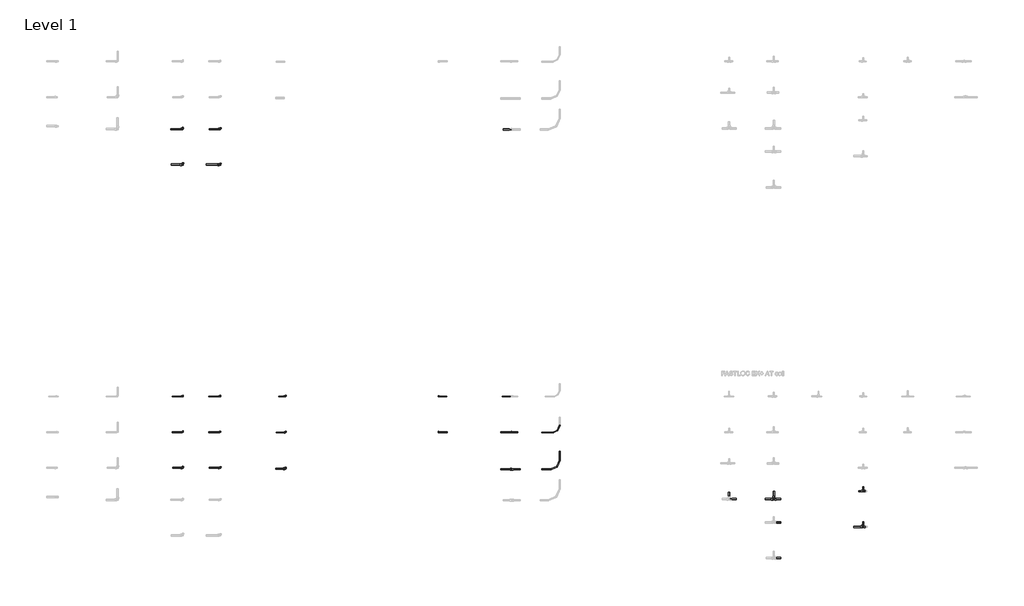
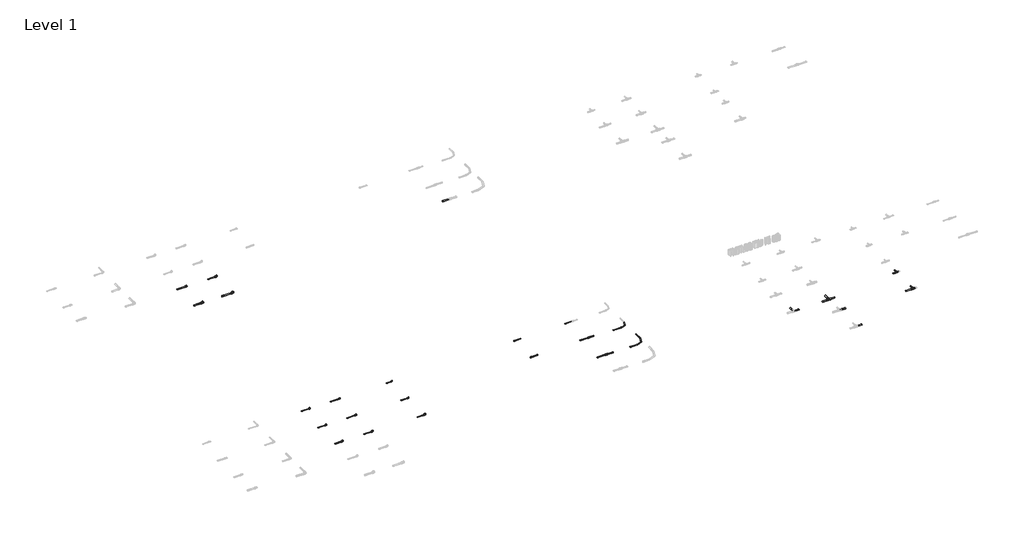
# One storey, part 5 of 16: 35 pipe segments, 24 pipe fittings.
"""IFC4 building model written with IfcOpenShell, lengths in millimetres."""

from ifc_helpers import new_model, si_unit, point, frame, frame_2d, origin, place, context, project, spatial, circle_curve, trimmed, segment, composite_curve, outline, extrude, transform, mapped, element, save
from components import pipe_fitting_24e9e25e, pipe_fitting_eea56ca5, pipe_fitting_715ab4bf, pipe_fitting_d7e847e2, pipe_fitting_2fdc1963, pipe_fitting_cb24982a, pipe_fitting_3031d961, pipe_fitting_5b5ff5cf, pipe_fitting_05bb6e73, pipe_fitting_50552096, pipe_fitting_31065531, pipe_fitting_7921c085, pipe_fitting_c3e7e8f9, pipe_fitting_baae1e9c, pipe_fitting_d3274886, pipe_fitting_5bb2cb98, pipe_fitting_ec6341fa, pipe_fitting_749d9a03, pipe_fitting_037c3912, pipe_fitting_c1b6c9bd, pipe_fitting_c244d94c

model = new_model("IFC4")

# Units and contexts
model_context = context("Model", 3, world=origin())
ifc_project = project(units=[si_unit("LENGTHUNIT", "METRE", prefix="MILLI")], contexts=[model_context])

# Site, building, storey
site = spatial("IfcSite", under=ifc_project)
building = spatial("IfcBuilding", under=site)
storey = spatial("IfcBuildingStorey", under=building, Name="Level 1", Elevation=0.0)

# Pipe fittings
placement = place(None, origin())
pipe_fitting_shape = pipe_fitting_24e9e25e(model_context)
element("IfcPipeFitting", 1, ObjectType="FASTLOC_Blanking plug EX+ : FSL Bp EX+ AT", at=placement, inside=storey, context=model_context, shape_type="MappedRepresentation", body=[
    mapped(pipe_fitting_shape, transform((22451.3241081, -7087.6479967, 0.0), x_axis=(1.0, 0.0, 0.0), y_axis=(0.0, 1.0, 0.0), z_axis=(0.0, 0.0, 1.0))),
])
pipe_fitting_2_shape = pipe_fitting_eea56ca5(model_context)
element("IfcPipeFitting", 2, ObjectType="FASTLOC_Elbow with female thread EX+ : FSL A internal DE", at=placement, inside=storey, context=model_context, shape_type="MappedRepresentation", body=[
    mapped(pipe_fitting_2_shape, transform((17573.8113057, -304.9640428, 0.0), x_axis=(1.0, 0.0, 0.0), y_axis=(0.0, 1.0, 0.0), z_axis=(0.0, 0.0, 1.0))),
])
pipe_fitting_3_shape = pipe_fitting_715ab4bf(model_context)
element("IfcPipeFitting", 3, ObjectType="FASTLOC_Elbow with female thread EX+ : FSL A internal DE", at=placement, inside=storey, context=model_context, shape_type="MappedRepresentation", body=[
    mapped(pipe_fitting_3_shape, transform((17573.8113057, -1099.407392, 0.0), x_axis=(1.0, 0.0, 0.0), y_axis=(0.0, 1.0, 0.0), z_axis=(0.0, 0.0, 1.0))),
])
pipe_fitting_4_shape = pipe_fitting_d7e847e2(model_context)
element("IfcPipeFitting", 4, ObjectType="FASTLOC_Elbow with female thread EX+ : FSL A internal AT", at=placement, inside=storey, context=model_context, shape_type="MappedRepresentation", body=[
    mapped(pipe_fitting_4_shape, transform((17573.8113057, -7087.6479967, 0.0), x_axis=(1.0, 0.0, 0.0), y_axis=(0.0, 1.0, 0.0), z_axis=(0.0, 0.0, 1.0))),
])
pipe_fitting_5_shape = pipe_fitting_2fdc1963(model_context)
element("IfcPipeFitting", 5, ObjectType="FASTLOC_Elbow with female thread EX+ : FSL A internal AT", at=placement, inside=storey, context=model_context, shape_type="MappedRepresentation", body=[
    mapped(pipe_fitting_5_shape, transform((17573.8113057, -7887.6479967, 0.0), x_axis=(1.0, 0.0, 0.0), y_axis=(0.0, 1.0, 0.0), z_axis=(0.0, 0.0, 1.0))),
])
element("IfcPipeFitting", 6, ObjectType="FASTLOC_Elbow with female thread EX+ : FSL A internal AT", at=placement, inside=storey, context=model_context, shape_type="MappedRepresentation", body=[
    mapped(pipe_fitting_2_shape, transform((19035.3824015, -7906.354246, 0.0), x_axis=(1.0, 0.0, 0.0), y_axis=(0.0, 1.0, 0.0), z_axis=(0.0, 0.0, 1.0))),
])
pipe_fitting_6_shape = pipe_fitting_cb24982a(model_context)
element("IfcPipeFitting", 7, ObjectType="FASTLOC_Elbow with male thread EX+ : FSL A internal DE", at=placement, inside=storey, context=model_context, shape_type="MappedRepresentation", body=[
    mapped(pipe_fitting_6_shape, transform((16735.3824015, -304.9640428, 0.0), x_axis=(1.0, 0.0, 0.0), y_axis=(0.0, 1.0, 0.0), z_axis=(0.0, 0.0, 1.0))),
])
pipe_fitting_7_shape = pipe_fitting_3031d961(model_context)
element("IfcPipeFitting", 8, ObjectType="FASTLOC_Elbow with male thread EX+ : FSL A internal DE", at=placement, inside=storey, context=model_context, shape_type="MappedRepresentation", body=[
    mapped(pipe_fitting_7_shape, transform((16735.3824015, -1099.407392, 0.0), x_axis=(1.0, 0.0, 0.0), y_axis=(0.0, 1.0, 0.0), z_axis=(0.0, 0.0, 1.0))),
])
pipe_fitting_8_shape = pipe_fitting_5b5ff5cf(model_context)
element("IfcPipeFitting", 9, ObjectType="FASTLOC_Elbow with male thread EX+ : FSL A internal AT", at=placement, inside=storey, context=model_context, shape_type="MappedRepresentation", body=[
    mapped(pipe_fitting_8_shape, transform((16735.3824015, -6287.6479967, 0.0), x_axis=(1.0, 0.0, 0.0), y_axis=(0.0, 1.0, 0.0), z_axis=(0.0, 0.0, 1.0))),
])
pipe_fitting_9_shape = pipe_fitting_05bb6e73(model_context)
element("IfcPipeFitting", 10, ObjectType="FASTLOC_Elbow with male thread EX+ : FSL A internal AT", at=placement, inside=storey, context=model_context, shape_type="MappedRepresentation", body=[
    mapped(pipe_fitting_9_shape, transform((16735.3824015, -7887.6479967, 0.0), x_axis=(1.0, 0.0, 0.0), y_axis=(0.0, 1.0, 0.0), z_axis=(0.0, 0.0, 1.0))),
])
pipe_fitting_10_shape = pipe_fitting_50552096(model_context)
element("IfcPipeFitting", 11, ObjectType="FASTLOC_ML_bend : FSL ML AT", at=placement, inside=storey, context=model_context, shape_type="MappedRepresentation", body=[
    mapped(pipe_fitting_10_shape, transform((25170.2040344, -7095.6479967, 0.0), x_axis=(1.0, 0.0, 0.0), y_axis=(0.0, 1.0, 0.0), z_axis=(0.0, 0.0, 1.0))),
])
pipe_fitting_11_shape = pipe_fitting_31065531(model_context)
element("IfcPipeFitting", 12, ObjectType="FASTLOC_ML_bend : FSL ML AT", at=placement, inside=storey, context=model_context, shape_type="MappedRepresentation", body=[
    mapped(pipe_fitting_11_shape, transform((25170.2040344, -7918.854246, 0.0), x_axis=(1.0, 0.0, 0.0), y_axis=(0.0, 1.0, 0.0), z_axis=(0.0, 0.0, 1.0))),
])
pipe_fitting_12_shape = pipe_fitting_7921c085(model_context)
element("IfcPipeFitting", 13, ObjectType="FASTLOC_T-piece_EX+ : FSL T-Piece EX+ AT", at=placement, inside=storey, context=model_context, shape_type="MappedRepresentation", body=[
    mapped(pipe_fitting_12_shape, transform((29962.9146925, -8587.6479967, 0.0), x_axis=(1.0, 0.0, 0.0), y_axis=(0.0, 1.0, 0.0), z_axis=(0.0, 0.0, 1.0))),
])
pipe_fitting_13_shape = pipe_fitting_c3e7e8f9(model_context)
element("IfcPipeFitting", 14, ObjectType="FASTLOC_T-piece_EX+ : FSL T-Piece EX+ AT", at=placement, inside=storey, context=model_context, shape_type="MappedRepresentation", body=[
    mapped(pipe_fitting_13_shape, transform((31962.9146925, -9207.6479967, 0.0), x_axis=(1.0, 0.0, 0.0), y_axis=(0.0, 1.0, 0.0), z_axis=(0.0, 0.0, 1.0))),
])
pipe_fitting_14_shape = pipe_fitting_baae1e9c(model_context)
element("IfcPipeFitting", 15, ObjectType="FASTLOC_T-piece_EX+ : FSL T-Piece EX+ AT", at=placement, inside=storey, context=model_context, shape_type="MappedRepresentation", body=[
    mapped(pipe_fitting_14_shape, transform((31962.9146925, -8407.6479967, 0.0), x_axis=(1.0, 0.0, 0.0), y_axis=(0.0, 1.0, 0.0), z_axis=(0.0, 0.0, 1.0))),
])
pipe_fitting_15_shape = pipe_fitting_d3274886(model_context)
element("IfcPipeFitting", 16, ObjectType="FASTLOC_Elbow with male thread EX+ : FSL A internal AT", at=placement, inside=storey, context=model_context, shape_type="MappedRepresentation", body=[
    mapped(pipe_fitting_15_shape, transform((16735.3824015, -7087.6479967, 0.0), x_axis=(1.0, 0.0, 0.0), y_axis=(0.0, 1.0, 0.0), z_axis=(0.0, 0.0, 1.0))),
])
pipe_fitting_16_shape = pipe_fitting_5bb2cb98(model_context)
element("IfcPipeFitting", 17, ObjectType="FASTLOC_Elbow with female thread EX+ : FSL A internal AT", at=placement, inside=storey, context=model_context, shape_type="MappedRepresentation", body=[
    mapped(pipe_fitting_16_shape, transform((17573.8113057, -6287.6479967, 0.0), x_axis=(1.0, 0.0, 0.0), y_axis=(0.0, 1.0, 0.0), z_axis=(0.0, 0.0, 1.0))),
])
element("IfcPipeFitting", 18, ObjectType="FASTLOC_Elbow with female thread EX+ : FSL A internal AT", at=placement, inside=storey, context=model_context, shape_type="MappedRepresentation", body=[
    mapped(pipe_fitting_16_shape, transform((19035.3824015, -6287.6479967, 0.0), x_axis=(1.0, 0.0, 0.0), y_axis=(0.0, 1.0, 0.0), z_axis=(0.0, 0.0, 1.0))),
])
element("IfcPipeFitting", 19, ObjectType="FASTLOC_Elbow with female thread EX+ : FSL A internal AT", at=placement, inside=storey, context=model_context, shape_type="MappedRepresentation", body=[
    mapped(pipe_fitting_16_shape, transform((19035.3824015, -7095.6479967, 0.0), x_axis=(1.0, 0.0, 0.0), y_axis=(0.0, 1.0, 0.0), z_axis=(0.0, 0.0, 1.0))),
])
pipe_fitting_17_shape = pipe_fitting_ec6341fa(model_context)
element("IfcPipeFitting", 20, ObjectType="FASTLOC_Blanking plug EX+ : FSL Bp EX+ AT", at=placement, inside=storey, context=model_context, shape_type="MappedRepresentation", body=[
    mapped(pipe_fitting_17_shape, transform((22451.3241081, -6287.6479967, 0.0), x_axis=(1.0, 0.0, 0.0), y_axis=(0.0, 1.0, 0.0), z_axis=(0.0, 0.0, 1.0))),
])
pipe_fitting_18_shape = pipe_fitting_749d9a03(model_context)
element("IfcPipeFitting", 21, ObjectType="RAUTITAN_Sleeve PX : RTI S PX", at=placement, inside=storey, context=model_context, shape_type="MappedRepresentation", body=[
    mapped(pipe_fitting_18_shape, transform((24105.6241081, -7087.6479967, 13.7), x_axis=(1.0, 0.0, 0.0), y_axis=(0.0, 1.0, 0.0), z_axis=(0.0, 0.0, 1.0))),
])
pipe_fitting_19_shape = pipe_fitting_037c3912(model_context)
element("IfcPipeFitting", 22, ObjectType="RAUTITAN_Sleeve PX : RTI S PX", at=placement, inside=storey, context=model_context, shape_type="MappedRepresentation", body=[
    mapped(pipe_fitting_19_shape, transform((24107.9241081, -7918.854246, 13.7), x_axis=(1.0, 0.0, 0.0), y_axis=(0.0, 1.0, 0.0), z_axis=(0.0, 0.0, 1.0))),
])
pipe_fitting_20_shape = pipe_fitting_c1b6c9bd(model_context)
element("IfcPipeFitting", 23, ObjectType="FASTLOC_Adapter coupling EX+ : FSL TC EX+ AT", at=placement, inside=storey, context=model_context, shape_type="MappedRepresentation", body=[
    mapped(pipe_fitting_20_shape, transform((24091.3241081, -7087.6479967, 13.7), x_axis=(1.0, 0.0, 0.0), y_axis=(0.0, 1.0, 0.0), z_axis=(0.0, 0.0, 1.0))),
])
pipe_fitting_21_shape = pipe_fitting_c244d94c(model_context)
element("IfcPipeFitting", 24, ObjectType="FASTLOC_Adapter coupling EX+ : FSL TC EX+ AT", at=placement, inside=storey, context=model_context, shape_type="MappedRepresentation", body=[
    mapped(pipe_fitting_21_shape, transform((24091.3241081, -7918.854246, 13.7), x_axis=(1.0, 0.0, 0.0), y_axis=(0.0, 1.0, 0.0), z_axis=(0.0, 0.0, 1.0))),
])

# Pipe segments
element("IfcPipeSegment", 25, ObjectType="FASTLOC EX+ ML DE bar", at=placement, inside=storey, context=model_context, shape_type="SweptSolid", body=[
    extrude(outline(composite_curve([segment(trimmed(circle_curve(frame_2d((-311.8142398, 13.7)), 16.0), [point((-295.8142398, 13.7))], [point((-311.8142398, -2.3))], False, "CARTESIAN"), True, "CONTINUOUS"), segment(trimmed(circle_curve(frame_2d((-311.8142398, 13.7)), 16.0), [point((-311.8142398, -2.3))], [point((-327.8142398, 13.7))], False, "CARTESIAN"), True, "CONTINUOUS"), segment(trimmed(circle_curve(frame_2d((-311.8142398, 13.7)), 16.0), [point((-327.8142398, 13.7))], [point((-311.8142398, 29.7))], False, "CARTESIAN"), True, "CONTINUOUS"), segment(trimmed(circle_curve(frame_2d((-311.8142398, 13.7)), 16.0), [point((-311.8142398, 29.7))], [point((-295.8142398, 13.7))], False, "CARTESIAN"), True, "CONTINUOUS")], self_intersect=False)), frame((23905.8241081, 0.0, 0.0), z_axis=(1.0, 0.0, 0.0), x_axis=(0.0, 1.0, 0.0)), (0.0, 0.0, 1.0), 180.0),
])
element("IfcPipeSegment", 26, ObjectType="FASTLOC EX+ ML DE bar", at=placement, inside=storey, context=model_context, shape_type="SweptSolid", body=[
    extrude(outline(composite_curve([segment(trimmed(circle_curve(frame_2d((-304.9640428, 0.0)), 12.5), [point((-292.4640428, 0.0))], [point((-304.9640428, -12.5))], False, "CARTESIAN"), True, "CONTINUOUS"), segment(trimmed(circle_curve(frame_2d((-304.9640428, 0.0)), 12.5), [point((-304.9640428, -12.5))], [point((-317.4640428, 0.0))], False, "CARTESIAN"), True, "CONTINUOUS"), segment(trimmed(circle_curve(frame_2d((-304.9640428, 0.0)), 12.5), [point((-317.4640428, 0.0))], [point((-304.9640428, 12.5))], False, "CARTESIAN"), True, "CONTINUOUS"), segment(trimmed(circle_curve(frame_2d((-304.9640428, 0.0)), 12.5), [point((-304.9640428, 12.5))], [point((-292.4640428, 0.0))], False, "CARTESIAN"), True, "CONTINUOUS")], self_intersect=False)), frame((17326.8113057, 0.0, 0.0), z_axis=(1.0, 0.0, 0.0), x_axis=(0.0, 1.0, 0.0)), (0.0, 0.0, 1.0), 220.0),
])
element("IfcPipeSegment", 27, ObjectType="FASTLOC EX+ ML DE bar", at=placement, inside=storey, context=model_context, shape_type="SweptSolid", body=[
    extrude(outline(composite_curve([segment(trimmed(circle_curve(frame_2d((-304.9640428, 0.0)), 12.5), [point((-292.4640428, 0.0))], [point((-304.9640428, -12.5))], False, "CARTESIAN"), True, "CONTINUOUS"), segment(trimmed(circle_curve(frame_2d((-304.9640428, 0.0)), 12.5), [point((-304.9640428, -12.5))], [point((-317.4640428, 0.0))], False, "CARTESIAN"), True, "CONTINUOUS"), segment(trimmed(circle_curve(frame_2d((-304.9640428, 0.0)), 12.5), [point((-317.4640428, 0.0))], [point((-304.9640428, 12.5))], False, "CARTESIAN"), True, "CONTINUOUS"), segment(trimmed(circle_curve(frame_2d((-304.9640428, 0.0)), 12.5), [point((-304.9640428, 12.5))], [point((-292.4640428, 0.0))], False, "CARTESIAN"), True, "CONTINUOUS")], self_intersect=False)), frame((16461.1824015, 0.0, 0.0), z_axis=(1.0, 0.0, 0.0), x_axis=(0.0, 1.0, 0.0)), (0.0, 0.0, 1.0), 250.0),
])
element("IfcPipeSegment", 28, ObjectType="FASTLOC EX+ ML DE bar", at=placement, inside=storey, context=model_context, shape_type="SweptSolid", body=[
    extrude(outline(composite_curve([segment(trimmed(circle_curve(frame_2d((-1099.407392, 0.0)), 16.0), [point((-1083.407392, 0.0))], [point((-1099.407392, -16.0))], False, "CARTESIAN"), True, "CONTINUOUS"), segment(trimmed(circle_curve(frame_2d((-1099.407392, 0.0)), 16.0), [point((-1099.407392, -16.0))], [point((-1115.407392, 0.0))], False, "CARTESIAN"), True, "CONTINUOUS"), segment(trimmed(circle_curve(frame_2d((-1099.407392, 0.0)), 16.0), [point((-1115.407392, 0.0))], [point((-1099.407392, 16.0))], False, "CARTESIAN"), True, "CONTINUOUS"), segment(trimmed(circle_curve(frame_2d((-1099.407392, 0.0)), 16.0), [point((-1099.407392, 16.0))], [point((-1083.407392, 0.0))], False, "CARTESIAN"), True, "CONTINUOUS")], self_intersect=False)), frame((16475.6824015, 0.0, 0.0), z_axis=(1.0, 0.0, 0.0), x_axis=(0.0, 1.0, 0.0)), (0.0, 0.0, 1.0), 230.0),
])
element("IfcPipeSegment", 29, ObjectType="FASTLOC EX+ ML DE bar", at=placement, inside=storey, context=model_context, shape_type="SweptSolid", body=[
    extrude(outline(composite_curve([segment(trimmed(circle_curve(frame_2d((-1099.407392, 0.0)), 16.0), [point((-1083.407392, 0.0))], [point((-1099.407392, -16.0))], False, "CARTESIAN"), True, "CONTINUOUS"), segment(trimmed(circle_curve(frame_2d((-1099.407392, 0.0)), 16.0), [point((-1099.407392, -16.0))], [point((-1115.407392, 0.0))], False, "CARTESIAN"), True, "CONTINUOUS"), segment(trimmed(circle_curve(frame_2d((-1099.407392, 0.0)), 16.0), [point((-1115.407392, 0.0))], [point((-1099.407392, 16.0))], False, "CARTESIAN"), True, "CONTINUOUS"), segment(trimmed(circle_curve(frame_2d((-1099.407392, 0.0)), 16.0), [point((-1099.407392, 16.0))], [point((-1083.407392, 0.0))], False, "CARTESIAN"), True, "CONTINUOUS")], self_intersect=False)), frame((17261.8113057, 0.0, 0.0), z_axis=(1.0, 0.0, 0.0), x_axis=(0.0, 1.0, 0.0)), (0.0, 0.0, 1.0), 280.0),
])
element("IfcPipeSegment", 30, ObjectType="FASTLOC EX+ ML AT bar", at=placement, inside=storey, context=model_context, shape_type="SweptSolid", body=[
    extrude(outline(composite_curve([segment(trimmed(circle_curve(frame_2d((-7095.6479967, 0.0)), 10.0), [point((-7085.6479967, 0.0))], [point((-7095.6479967, -10.0))], False, "CARTESIAN"), True, "CONTINUOUS"), segment(trimmed(circle_curve(frame_2d((-7095.6479967, 0.0)), 10.0), [point((-7095.6479967, -10.0))], [point((-7105.6479967, 0.0))], False, "CARTESIAN"), True, "CONTINUOUS"), segment(trimmed(circle_curve(frame_2d((-7095.6479967, 0.0)), 10.0), [point((-7105.6479967, 0.0))], [point((-7095.6479967, 10.0))], False, "CARTESIAN"), True, "CONTINUOUS"), segment(trimmed(circle_curve(frame_2d((-7095.6479967, 0.0)), 10.0), [point((-7095.6479967, 10.0))], [point((-7085.6479967, 0.0))], False, "CARTESIAN"), True, "CONTINUOUS")], self_intersect=False)), frame((24770.2040344, 0.0, 0.0), z_axis=(1.0, 0.0, 0.0), x_axis=(0.0, 1.0, 0.0)), (0.0, 0.0, 1.0), 240.0),
])
element("IfcPipeSegment", 31, ObjectType="FASTLOC EX+ ML AT bar", at=placement, inside=storey, context=model_context, shape_type="SweptSolid", body=[
    extrude(outline(composite_curve([segment(trimmed(circle_curve(frame_2d((0.0, 25170.2040344)), 12.5), [point((0.0, 25182.7040344))], [point((12.5, 25170.2040344))], False, "CARTESIAN"), True, "CONTINUOUS"), segment(trimmed(circle_curve(frame_2d((0.0, 25170.2040344)), 12.5), [point((12.5, 25170.2040344))], [point((0.0, 25157.7040344))], False, "CARTESIAN"), True, "CONTINUOUS"), segment(trimmed(circle_curve(frame_2d((0.0, 25170.2040344)), 12.5), [point((0.0, 25157.7040344))], [point((-12.5, 25170.2040344))], False, "CARTESIAN"), True, "CONTINUOUS"), segment(trimmed(circle_curve(frame_2d((0.0, 25170.2040344)), 12.5), [point((-12.5, 25170.2040344))], [point((0.0, 25182.7040344))], False, "CARTESIAN"), True, "CONTINUOUS")], self_intersect=False)), frame((0.0, -7718.854246, 0.0), z_axis=(0.0, 1.0, 0.0), x_axis=(0.0, 0.0, 1.0)), (0.0, 0.0, 1.0), 200.0),
])
element("IfcPipeSegment", 32, ObjectType="FASTLOC EX+ ML AT bar", at=placement, inside=storey, context=model_context, shape_type="SweptSolid", body=[
    extrude(outline(composite_curve([segment(trimmed(circle_curve(frame_2d((-7918.854246, 0.0)), 12.5), [point((-7906.354246, 0.0))], [point((-7918.854246, -12.5))], False, "CARTESIAN"), True, "CONTINUOUS"), segment(trimmed(circle_curve(frame_2d((-7918.854246, 0.0)), 12.5), [point((-7918.854246, -12.5))], [point((-7931.354246, 0.0))], False, "CARTESIAN"), True, "CONTINUOUS"), segment(trimmed(circle_curve(frame_2d((-7918.854246, 0.0)), 12.5), [point((-7931.354246, 0.0))], [point((-7918.854246, 12.5))], False, "CARTESIAN"), True, "CONTINUOUS"), segment(trimmed(circle_curve(frame_2d((-7918.854246, 0.0)), 12.5), [point((-7918.854246, 12.5))], [point((-7906.354246, 0.0))], False, "CARTESIAN"), True, "CONTINUOUS")], self_intersect=False)), frame((24770.2040344, 0.0, 0.0), z_axis=(1.0, 0.0, 0.0), x_axis=(0.0, 1.0, 0.0)), (0.0, 0.0, 1.0), 200.0),
])
element("IfcPipeSegment", 33, ObjectType="FASTLOC EX+ ML AT bar", at=placement, inside=storey, context=model_context, shape_type="SweptSolid", body=[
    extrude(outline(composite_curve([segment(trimmed(circle_curve(frame_2d((-7918.854246, 13.7)), 12.5), [point((-7906.354246, 13.7))], [point((-7918.854246, 1.2))], False, "CARTESIAN"), True, "CONTINUOUS"), segment(trimmed(circle_curve(frame_2d((-7918.854246, 13.7)), 12.5), [point((-7918.854246, 1.2))], [point((-7931.354246, 13.7))], False, "CARTESIAN"), True, "CONTINUOUS"), segment(trimmed(circle_curve(frame_2d((-7918.854246, 13.7)), 12.5), [point((-7931.354246, 13.7))], [point((-7918.854246, 26.2))], False, "CARTESIAN"), True, "CONTINUOUS"), segment(trimmed(circle_curve(frame_2d((-7918.854246, 13.7)), 12.5), [point((-7918.854246, 26.2))], [point((-7906.354246, 13.7))], False, "CARTESIAN"), True, "CONTINUOUS")], self_intersect=False)), frame((23846.7241081, 0.0, 0.0), z_axis=(1.0, 0.0, 0.0), x_axis=(0.0, 1.0, 0.0)), (0.0, 0.0, 1.0), 240.0),
])
element("IfcPipeSegment", 34, ObjectType="FASTLOC EX+ ML AT bar", at=placement, inside=storey, context=model_context, shape_type="SweptSolid", body=[
    extrude(outline(composite_curve([segment(trimmed(circle_curve(frame_2d((-7918.854246, 13.7)), 12.5), [point((-7931.354246, 13.7))], [point((-7918.854246, 26.2))], False, "CARTESIAN"), True, "CONTINUOUS"), segment(trimmed(circle_curve(frame_2d((-7918.854246, 13.7)), 12.5), [point((-7918.854246, 26.2))], [point((-7906.354246, 13.7))], False, "CARTESIAN"), True, "CONTINUOUS"), segment(trimmed(circle_curve(frame_2d((-7918.854246, 13.7)), 12.5), [point((-7906.354246, 13.7))], [point((-7918.854246, 1.2))], False, "CARTESIAN"), True, "CONTINUOUS"), segment(trimmed(circle_curve(frame_2d((-7918.854246, 13.7)), 12.5), [point((-7918.854246, 1.2))], [point((-7931.354246, 13.7))], False, "CARTESIAN"), True, "CONTINUOUS")], self_intersect=False)), frame((24107.9241081, 0.0, 0.0), z_axis=(1.0, 0.0, 0.0), x_axis=(0.0, 1.0, 0.0)), (0.0, 0.0, 1.0), 182.7),
])
element("IfcPipeSegment", 35, ObjectType="FASTLOC EX+ ML AT bar", at=placement, inside=storey, context=model_context, shape_type="SweptSolid", body=[
    extrude(outline(composite_curve([segment(trimmed(circle_curve(frame_2d((-7087.6479967, 13.7)), 10.0), [point((-7097.6479967, 13.7))], [point((-7087.6479967, 23.7))], False, "CARTESIAN"), True, "CONTINUOUS"), segment(trimmed(circle_curve(frame_2d((-7087.6479967, 13.7)), 10.0), [point((-7087.6479967, 23.7))], [point((-7077.6479967, 13.7))], False, "CARTESIAN"), True, "CONTINUOUS"), segment(trimmed(circle_curve(frame_2d((-7087.6479967, 13.7)), 10.0), [point((-7077.6479967, 13.7))], [point((-7087.6479967, 3.7))], False, "CARTESIAN"), True, "CONTINUOUS"), segment(trimmed(circle_curve(frame_2d((-7087.6479967, 13.7)), 10.0), [point((-7087.6479967, 3.7))], [point((-7097.6479967, 13.7))], False, "CARTESIAN"), True, "CONTINUOUS")], self_intersect=False)), frame((24105.6241081, 0.0, 0.0), z_axis=(1.0, 0.0, 0.0), x_axis=(0.0, 1.0, 0.0)), (0.0, 0.0, 1.0), 120.0),
])
element("IfcPipeSegment", 36, ObjectType="FASTLOC EX+ ML AT bar", at=placement, inside=storey, context=model_context, shape_type="SweptSolid", body=[
    extrude(outline(composite_curve([segment(trimmed(circle_curve(frame_2d((-7087.6479967, 13.7)), 10.0), [point((-7077.6479967, 13.7))], [point((-7087.6479967, 3.7))], False, "CARTESIAN"), True, "CONTINUOUS"), segment(trimmed(circle_curve(frame_2d((-7087.6479967, 13.7)), 10.0), [point((-7087.6479967, 3.7))], [point((-7097.6479967, 13.7))], False, "CARTESIAN"), True, "CONTINUOUS"), segment(trimmed(circle_curve(frame_2d((-7087.6479967, 13.7)), 10.0), [point((-7097.6479967, 13.7))], [point((-7087.6479967, 23.7))], False, "CARTESIAN"), True, "CONTINUOUS"), segment(trimmed(circle_curve(frame_2d((-7087.6479967, 13.7)), 10.0), [point((-7087.6479967, 23.7))], [point((-7077.6479967, 13.7))], False, "CARTESIAN"), True, "CONTINUOUS")], self_intersect=False)), frame((23846.7241081, 0.0, 0.0), z_axis=(1.0, 0.0, 0.0), x_axis=(0.0, 1.0, 0.0)), (0.0, 0.0, 1.0), 240.3),
])
element("IfcPipeSegment", 37, ObjectType="FASTLOC EX+ ML AT bar", at=placement, inside=storey, context=model_context, shape_type="SweptSolid", body=[
    extrude(outline(composite_curve([segment(trimmed(circle_curve(frame_2d((-6287.6479967, 13.7)), 8.0), [point((-6279.6479967, 13.7))], [point((-6287.6479967, 5.7))], False, "CARTESIAN"), True, "CONTINUOUS"), segment(trimmed(circle_curve(frame_2d((-6287.6479967, 13.7)), 8.0), [point((-6287.6479967, 5.7))], [point((-6295.6479967, 13.7))], False, "CARTESIAN"), True, "CONTINUOUS"), segment(trimmed(circle_curve(frame_2d((-6287.6479967, 13.7)), 8.0), [point((-6295.6479967, 13.7))], [point((-6287.6479967, 21.7))], False, "CARTESIAN"), True, "CONTINUOUS"), segment(trimmed(circle_curve(frame_2d((-6287.6479967, 13.7)), 8.0), [point((-6287.6479967, 21.7))], [point((-6279.6479967, 13.7))], False, "CARTESIAN"), True, "CONTINUOUS")], self_intersect=False)), frame((23887.0241081, 0.0, 0.0), z_axis=(1.0, 0.0, 0.0), x_axis=(0.0, 1.0, 0.0)), (0.0, 0.0, 1.0), 200.0),
])
element("IfcPipeSegment", 38, ObjectType="FASTLOC EX+ ML AT bar", at=placement, inside=storey, context=model_context, shape_type="SweptSolid", body=[
    extrude(outline(composite_curve([segment(trimmed(circle_curve(frame_2d((-6287.6479967, 0.0)), 8.0), [point((-6295.6479967, 0.0))], [point((-6287.6479967, 8.0))], False, "CARTESIAN"), True, "CONTINUOUS"), segment(trimmed(circle_curve(frame_2d((-6287.6479967, 0.0)), 8.0), [point((-6287.6479967, 8.0))], [point((-6279.6479967, 0.0))], False, "CARTESIAN"), True, "CONTINUOUS"), segment(trimmed(circle_curve(frame_2d((-6287.6479967, 0.0)), 8.0), [point((-6279.6479967, 0.0))], [point((-6287.6479967, -8.0))], False, "CARTESIAN"), True, "CONTINUOUS"), segment(trimmed(circle_curve(frame_2d((-6287.6479967, 0.0)), 8.0), [point((-6287.6479967, -8.0))], [point((-6295.6479967, 0.0))], False, "CARTESIAN"), True, "CONTINUOUS")], self_intersect=False)), frame((22458.0241081, 0.0, 0.0), z_axis=(1.0, 0.0, 0.0), x_axis=(0.0, 1.0, 0.0)), (0.0, 0.0, 1.0), 180.0),
])
element("IfcPipeSegment", 39, ObjectType="FASTLOC EX+ ML AT bar", at=placement, inside=storey, context=model_context, shape_type="SweptSolid", body=[
    extrude(outline(composite_curve([segment(trimmed(circle_curve(frame_2d((-7087.6479967, 0.0)), 10.0), [point((-7097.6479967, 0.0))], [point((-7087.6479967, 10.0))], False, "CARTESIAN"), True, "CONTINUOUS"), segment(trimmed(circle_curve(frame_2d((-7087.6479967, 0.0)), 10.0), [point((-7087.6479967, 10.0))], [point((-7077.6479967, 0.0))], False, "CARTESIAN"), True, "CONTINUOUS"), segment(trimmed(circle_curve(frame_2d((-7087.6479967, 0.0)), 10.0), [point((-7077.6479967, 0.0))], [point((-7087.6479967, -10.0))], False, "CARTESIAN"), True, "CONTINUOUS"), segment(trimmed(circle_curve(frame_2d((-7087.6479967, 0.0)), 10.0), [point((-7087.6479967, -10.0))], [point((-7097.6479967, 0.0))], False, "CARTESIAN"), True, "CONTINUOUS")], self_intersect=False)), frame((22458.0241081, 0.0, 0.0), z_axis=(1.0, 0.0, 0.0), x_axis=(0.0, 1.0, 0.0)), (0.0, 0.0, 1.0), 200.0),
])
element("IfcPipeSegment", 40, ObjectType="FASTLOC EX+ ML AT bar", at=placement, inside=storey, context=model_context, shape_type="SweptSolid", body=[
    extrude(outline(composite_curve([segment(trimmed(circle_curve(frame_2d((-6287.6479967, 0.0)), 8.0), [point((-6279.6479967, 0.0))], [point((-6287.6479967, -8.0))], False, "CARTESIAN"), True, "CONTINUOUS"), segment(trimmed(circle_curve(frame_2d((-6287.6479967, 0.0)), 8.0), [point((-6287.6479967, -8.0))], [point((-6295.6479967, 0.0))], False, "CARTESIAN"), True, "CONTINUOUS"), segment(trimmed(circle_curve(frame_2d((-6287.6479967, 0.0)), 8.0), [point((-6295.6479967, 0.0))], [point((-6287.6479967, 8.0))], False, "CARTESIAN"), True, "CONTINUOUS"), segment(trimmed(circle_curve(frame_2d((-6287.6479967, 0.0)), 8.0), [point((-6287.6479967, 8.0))], [point((-6279.6479967, 0.0))], False, "CARTESIAN"), True, "CONTINUOUS")], self_intersect=False)), frame((18882.8824015, 0.0, 0.0), z_axis=(1.0, 0.0, 0.0), x_axis=(0.0, 1.0, 0.0)), (0.0, 0.0, 1.0), 130.2),
])
element("IfcPipeSegment", 41, ObjectType="FASTLOC EX+ ML AT bar", at=placement, inside=storey, context=model_context, shape_type="SweptSolid", body=[
    extrude(outline(composite_curve([segment(trimmed(circle_curve(frame_2d((-7095.6479967, 0.0)), 8.0), [point((-7087.6479967, 0.0))], [point((-7095.6479967, -8.0))], False, "CARTESIAN"), True, "CONTINUOUS"), segment(trimmed(circle_curve(frame_2d((-7095.6479967, 0.0)), 8.0), [point((-7095.6479967, -8.0))], [point((-7103.6479967, 0.0))], False, "CARTESIAN"), True, "CONTINUOUS"), segment(trimmed(circle_curve(frame_2d((-7095.6479967, 0.0)), 8.0), [point((-7103.6479967, 0.0))], [point((-7095.6479967, 8.0))], False, "CARTESIAN"), True, "CONTINUOUS"), segment(trimmed(circle_curve(frame_2d((-7095.6479967, 0.0)), 8.0), [point((-7095.6479967, 8.0))], [point((-7087.6479967, 0.0))], False, "CARTESIAN"), True, "CONTINUOUS")], self_intersect=False)), frame((18822.8824015, 0.0, 0.0), z_axis=(1.0, 0.0, 0.0), x_axis=(0.0, 1.0, 0.0)), (0.0, 0.0, 1.0), 190.2),
])
element("IfcPipeSegment", 42, ObjectType="FASTLOC EX+ ML AT bar", at=placement, inside=storey, context=model_context, shape_type="SweptSolid", body=[
    extrude(outline(composite_curve([segment(trimmed(circle_curve(frame_2d((-7906.354246, 0.0)), 12.5), [point((-7893.854246, 0.0))], [point((-7906.354246, -12.5))], False, "CARTESIAN"), True, "CONTINUOUS"), segment(trimmed(circle_curve(frame_2d((-7906.354246, 0.0)), 12.5), [point((-7906.354246, -12.5))], [point((-7918.854246, 0.0))], False, "CARTESIAN"), True, "CONTINUOUS"), segment(trimmed(circle_curve(frame_2d((-7906.354246, 0.0)), 12.5), [point((-7918.854246, 0.0))], [point((-7906.354246, 12.5))], False, "CARTESIAN"), True, "CONTINUOUS"), segment(trimmed(circle_curve(frame_2d((-7906.354246, 0.0)), 12.5), [point((-7906.354246, 12.5))], [point((-7893.854246, 0.0))], False, "CARTESIAN"), True, "CONTINUOUS")], self_intersect=False)), frame((18808.4824015, 0.0, 0.0), z_axis=(1.0, 0.0, 0.0), x_axis=(0.0, 1.0, 0.0)), (0.0, 0.0, 1.0), 199.9),
])
element("IfcPipeSegment", 43, ObjectType="FASTLOC EX+ ML AT bar", at=placement, inside=storey, context=model_context, shape_type="SweptSolid", body=[
    extrude(outline(composite_curve([segment(trimmed(circle_curve(frame_2d((-7887.6479967, 0.0)), 10.0), [point((-7877.6479967, 0.0))], [point((-7887.6479967, -10.0))], False, "CARTESIAN"), True, "CONTINUOUS"), segment(trimmed(circle_curve(frame_2d((-7887.6479967, 0.0)), 10.0), [point((-7887.6479967, -10.0))], [point((-7897.6479967, 0.0))], False, "CARTESIAN"), True, "CONTINUOUS"), segment(trimmed(circle_curve(frame_2d((-7887.6479967, 0.0)), 10.0), [point((-7897.6479967, 0.0))], [point((-7887.6479967, 10.0))], False, "CARTESIAN"), True, "CONTINUOUS"), segment(trimmed(circle_curve(frame_2d((-7887.6479967, 0.0)), 10.0), [point((-7887.6479967, 10.0))], [point((-7877.6479967, 0.0))], False, "CARTESIAN"), True, "CONTINUOUS")], self_intersect=False)), frame((17326.8113057, 0.0, 0.0), z_axis=(1.0, 0.0, 0.0), x_axis=(0.0, 1.0, 0.0)), (0.0, 0.0, 1.0), 221.0),
])
element("IfcPipeSegment", 44, ObjectType="FASTLOC EX+ ML AT bar", at=placement, inside=storey, context=model_context, shape_type="SweptSolid", body=[
    extrude(outline(composite_curve([segment(trimmed(circle_curve(frame_2d((-7087.6479967, 0.0)), 10.0), [point((-7077.6479967, 0.0))], [point((-7087.6479967, -10.0))], False, "CARTESIAN"), True, "CONTINUOUS"), segment(trimmed(circle_curve(frame_2d((-7087.6479967, 0.0)), 10.0), [point((-7087.6479967, -10.0))], [point((-7097.6479967, 0.0))], False, "CARTESIAN"), True, "CONTINUOUS"), segment(trimmed(circle_curve(frame_2d((-7087.6479967, 0.0)), 10.0), [point((-7097.6479967, 0.0))], [point((-7087.6479967, 10.0))], False, "CARTESIAN"), True, "CONTINUOUS"), segment(trimmed(circle_curve(frame_2d((-7087.6479967, 0.0)), 10.0), [point((-7087.6479967, 10.0))], [point((-7077.6479967, 0.0))], False, "CARTESIAN"), True, "CONTINUOUS")], self_intersect=False)), frame((17311.1113057, 0.0, 0.0), z_axis=(1.0, 0.0, 0.0), x_axis=(0.0, 1.0, 0.0)), (0.0, 0.0, 1.0), 240.0),
])
element("IfcPipeSegment", 45, ObjectType="FASTLOC EX+ ML AT bar", at=placement, inside=storey, context=model_context, shape_type="SweptSolid", body=[
    extrude(outline(composite_curve([segment(trimmed(circle_curve(frame_2d((-6287.6479967, 0.0)), 8.0), [point((-6279.6479967, 0.0))], [point((-6287.6479967, -8.0))], False, "CARTESIAN"), True, "CONTINUOUS"), segment(trimmed(circle_curve(frame_2d((-6287.6479967, 0.0)), 8.0), [point((-6287.6479967, -8.0))], [point((-6295.6479967, 0.0))], False, "CARTESIAN"), True, "CONTINUOUS"), segment(trimmed(circle_curve(frame_2d((-6287.6479967, 0.0)), 8.0), [point((-6295.6479967, 0.0))], [point((-6287.6479967, 8.0))], False, "CARTESIAN"), True, "CONTINUOUS"), segment(trimmed(circle_curve(frame_2d((-6287.6479967, 0.0)), 8.0), [point((-6287.6479967, 8.0))], [point((-6279.6479967, 0.0))], False, "CARTESIAN"), True, "CONTINUOUS")], self_intersect=False)), frame((17311.1113057, 0.0, 0.0), z_axis=(1.0, 0.0, 0.0), x_axis=(0.0, 1.0, 0.0)), (0.0, 0.0, 1.0), 240.4),
])
element("IfcPipeSegment", 46, ObjectType="FASTLOC EX+ ML AT bar", at=placement, inside=storey, context=model_context, shape_type="SweptSolid", body=[
    extrude(outline(composite_curve([segment(trimmed(circle_curve(frame_2d((-6287.6479967, 0.0)), 8.0), [point((-6279.6479967, 0.0))], [point((-6287.6479967, -8.0))], False, "CARTESIAN"), True, "CONTINUOUS"), segment(trimmed(circle_curve(frame_2d((-6287.6479967, 0.0)), 8.0), [point((-6287.6479967, -8.0))], [point((-6295.6479967, 0.0))], False, "CARTESIAN"), True, "CONTINUOUS"), segment(trimmed(circle_curve(frame_2d((-6287.6479967, 0.0)), 8.0), [point((-6295.6479967, 0.0))], [point((-6287.6479967, 8.0))], False, "CARTESIAN"), True, "CONTINUOUS"), segment(trimmed(circle_curve(frame_2d((-6287.6479967, 0.0)), 8.0), [point((-6287.6479967, 8.0))], [point((-6279.6479967, 0.0))], False, "CARTESIAN"), True, "CONTINUOUS")], self_intersect=False)), frame((16495.5824015, 0.0, 0.0), z_axis=(1.0, 0.0, 0.0), x_axis=(0.0, 1.0, 0.0)), (0.0, 0.0, 1.0), 220.0),
])
element("IfcPipeSegment", 47, ObjectType="FASTLOC EX+ ML AT bar", at=placement, inside=storey, context=model_context, shape_type="SweptSolid", body=[
    extrude(outline(composite_curve([segment(trimmed(circle_curve(frame_2d((-7087.6479967, 0.0)), 10.0), [point((-7077.6479967, 0.0))], [point((-7087.6479967, -10.0))], False, "CARTESIAN"), True, "CONTINUOUS"), segment(trimmed(circle_curve(frame_2d((-7087.6479967, 0.0)), 10.0), [point((-7087.6479967, -10.0))], [point((-7097.6479967, 0.0))], False, "CARTESIAN"), True, "CONTINUOUS"), segment(trimmed(circle_curve(frame_2d((-7087.6479967, 0.0)), 10.0), [point((-7097.6479967, 0.0))], [point((-7087.6479967, 10.0))], False, "CARTESIAN"), True, "CONTINUOUS"), segment(trimmed(circle_curve(frame_2d((-7087.6479967, 0.0)), 10.0), [point((-7087.6479967, 10.0))], [point((-7077.6479967, 0.0))], False, "CARTESIAN"), True, "CONTINUOUS")], self_intersect=False)), frame((16495.5824015, 0.0, 0.0), z_axis=(1.0, 0.0, 0.0), x_axis=(0.0, 1.0, 0.0)), (0.0, 0.0, 1.0), 219.6),
])
element("IfcPipeSegment", 48, ObjectType="FASTLOC EX+ ML AT bar", at=placement, inside=storey, context=model_context, shape_type="SweptSolid", body=[
    extrude(outline(composite_curve([segment(trimmed(circle_curve(frame_2d((-7887.6479967, 0.0)), 10.0), [point((-7877.6479967, 0.0))], [point((-7887.6479967, -10.0))], False, "CARTESIAN"), True, "CONTINUOUS"), segment(trimmed(circle_curve(frame_2d((-7887.6479967, 0.0)), 10.0), [point((-7887.6479967, -10.0))], [point((-7897.6479967, 0.0))], False, "CARTESIAN"), True, "CONTINUOUS"), segment(trimmed(circle_curve(frame_2d((-7887.6479967, 0.0)), 10.0), [point((-7897.6479967, 0.0))], [point((-7887.6479967, 10.0))], False, "CARTESIAN"), True, "CONTINUOUS"), segment(trimmed(circle_curve(frame_2d((-7887.6479967, 0.0)), 10.0), [point((-7887.6479967, 10.0))], [point((-7877.6479967, 0.0))], False, "CARTESIAN"), True, "CONTINUOUS")], self_intersect=False)), frame((16512.1824015, 0.0, 0.0), z_axis=(1.0, 0.0, 0.0), x_axis=(0.0, 1.0, 0.0)), (0.0, 0.0, 1.0), 200.0),
])
element("IfcPipeSegment", 49, ObjectType="FASTLOC EX+ ML AT coil", at=placement, inside=storey, context=model_context, shape_type="SweptSolid", body=[
    extrude(outline(composite_curve([segment(trimmed(circle_curve(frame_2d((0.0, 31962.9146925)), 10.0), [point((0.0, 31972.9146925))], [point((10.0, 31962.9146925))], False, "CARTESIAN"), True, "CONTINUOUS"), segment(trimmed(circle_curve(frame_2d((0.0, 31962.9146925)), 10.0), [point((10.0, 31962.9146925))], [point((0.0, 31952.9146925))], False, "CARTESIAN"), True, "CONTINUOUS"), segment(trimmed(circle_curve(frame_2d((0.0, 31962.9146925)), 10.0), [point((0.0, 31952.9146925))], [point((-10.0, 31962.9146925))], False, "CARTESIAN"), True, "CONTINUOUS"), segment(trimmed(circle_curve(frame_2d((0.0, 31962.9146925)), 10.0), [point((-10.0, 31962.9146925))], [point((0.0, 31972.9146925))], False, "CARTESIAN"), True, "CONTINUOUS")], self_intersect=False)), frame((0.0, -8378.4479967, 0.0), z_axis=(0.0, 1.0, 0.0), x_axis=(0.0, 0.0, 1.0)), (0.0, 0.0, 1.0), 65.0),
])
element("IfcPipeSegment", 50, ObjectType="FASTLOC EX+ ML AT coil", at=placement, inside=storey, context=model_context, shape_type="SweptSolid", body=[
    extrude(outline(composite_curve([segment(trimmed(circle_curve(frame_2d((-8407.6479967, 0.0)), 12.5), [point((-8395.1479967, 0.0))], [point((-8407.6479967, -12.5))], False, "CARTESIAN"), True, "CONTINUOUS"), segment(trimmed(circle_curve(frame_2d((-8407.6479967, 0.0)), 12.5), [point((-8407.6479967, -12.5))], [point((-8420.1479967, 0.0))], False, "CARTESIAN"), True, "CONTINUOUS"), segment(trimmed(circle_curve(frame_2d((-8407.6479967, 0.0)), 12.5), [point((-8420.1479967, 0.0))], [point((-8407.6479967, 12.5))], False, "CARTESIAN"), True, "CONTINUOUS"), segment(trimmed(circle_curve(frame_2d((-8407.6479967, 0.0)), 12.5), [point((-8407.6479967, 12.5))], [point((-8395.1479967, 0.0))], False, "CARTESIAN"), True, "CONTINUOUS")], self_intersect=False)), frame((31864.6146925, 0.0, 0.0), z_axis=(1.0, 0.0, 0.0), x_axis=(0.0, 1.0, 0.0)), (0.0, 0.0, 1.0), 80.0),
])
element("IfcPipeSegment", 51, ObjectType="FASTLOC EX+ ML AT coil", at=placement, inside=storey, context=model_context, shape_type="SweptSolid", body=[
    extrude(outline(composite_curve([segment(trimmed(circle_curve(frame_2d((0.0, 31962.9146925)), 12.5), [point((0.0, 31975.4146925))], [point((12.5, 31962.9146925))], False, "CARTESIAN"), True, "CONTINUOUS"), segment(trimmed(circle_curve(frame_2d((0.0, 31962.9146925)), 12.5), [point((12.5, 31962.9146925))], [point((0.0, 31950.4146925))], False, "CARTESIAN"), True, "CONTINUOUS"), segment(trimmed(circle_curve(frame_2d((0.0, 31962.9146925)), 12.5), [point((0.0, 31950.4146925))], [point((-12.5, 31962.9146925))], False, "CARTESIAN"), True, "CONTINUOUS"), segment(trimmed(circle_curve(frame_2d((0.0, 31962.9146925)), 12.5), [point((-12.5, 31962.9146925))], [point((0.0, 31975.4146925))], False, "CARTESIAN"), True, "CONTINUOUS")], self_intersect=False)), frame((0.0, -9173.2479967, 0.0), z_axis=(0.0, 1.0, 0.0), x_axis=(0.0, 0.0, 1.0)), (0.0, 0.0, 1.0), 85.0),
])
element("IfcPipeSegment", 52, ObjectType="FASTLOC EX+ ML AT coil", at=placement, inside=storey, context=model_context, shape_type="SweptSolid", body=[
    extrude(outline(composite_curve([segment(trimmed(circle_curve(frame_2d((-9207.6479967, 0.0)), 16.0), [point((-9191.6479967, 0.0))], [point((-9207.6479967, -16.0))], False, "CARTESIAN"), True, "CONTINUOUS"), segment(trimmed(circle_curve(frame_2d((-9207.6479967, 0.0)), 16.0), [point((-9207.6479967, -16.0))], [point((-9223.6479967, 0.0))], False, "CARTESIAN"), True, "CONTINUOUS"), segment(trimmed(circle_curve(frame_2d((-9207.6479967, 0.0)), 16.0), [point((-9223.6479967, 0.0))], [point((-9207.6479967, 16.0))], False, "CARTESIAN"), True, "CONTINUOUS"), segment(trimmed(circle_curve(frame_2d((-9207.6479967, 0.0)), 16.0), [point((-9207.6479967, 16.0))], [point((-9191.6479967, 0.0))], False, "CARTESIAN"), True, "CONTINUOUS")], self_intersect=False)), frame((31755.8146925, 0.0, 0.0), z_axis=(1.0, 0.0, 0.0), x_axis=(0.0, 1.0, 0.0)), (0.0, 0.0, 1.0), 185.0),
])
element("IfcPipeSegment", 53, ObjectType="FASTLOC EX+ ML AT coil", at=placement, inside=storey, context=model_context, shape_type="SweptSolid", body=[
    extrude(outline(composite_curve([segment(trimmed(circle_curve(frame_2d((-8587.6479967, 0.0)), 16.0), [point((-8603.6479967, 0.0))], [point((-8587.6479967, 16.0))], False, "CARTESIAN"), True, "CONTINUOUS"), segment(trimmed(circle_curve(frame_2d((-8587.6479967, 0.0)), 16.0), [point((-8587.6479967, 16.0))], [point((-8571.6479967, 0.0))], False, "CARTESIAN"), True, "CONTINUOUS"), segment(trimmed(circle_curve(frame_2d((-8587.6479967, 0.0)), 16.0), [point((-8571.6479967, 0.0))], [point((-8587.6479967, -16.0))], False, "CARTESIAN"), True, "CONTINUOUS"), segment(trimmed(circle_curve(frame_2d((-8587.6479967, 0.0)), 16.0), [point((-8587.6479967, -16.0))], [point((-8603.6479967, 0.0))], False, "CARTESIAN"), True, "CONTINUOUS")], self_intersect=False)), frame((29987.7146925, 0.0, 0.0), z_axis=(1.0, 0.0, 0.0), x_axis=(0.0, 1.0, 0.0)), (0.0, 0.0, 1.0), 130.0),
])
element("IfcPipeSegment", 54, ObjectType="FASTLOC EX+ ML AT coil", at=placement, inside=storey, context=model_context, shape_type="SweptSolid", body=[
    extrude(outline(composite_curve([segment(trimmed(circle_curve(frame_2d((0.0, 29962.9146925)), 16.0), [point((0.0, 29978.9146925))], [point((16.0, 29962.9146925))], False, "CARTESIAN"), True, "CONTINUOUS"), segment(trimmed(circle_curve(frame_2d((0.0, 29962.9146925)), 16.0), [point((16.0, 29962.9146925))], [point((0.0, 29946.9146925))], False, "CARTESIAN"), True, "CONTINUOUS"), segment(trimmed(circle_curve(frame_2d((0.0, 29962.9146925)), 16.0), [point((0.0, 29946.9146925))], [point((-16.0, 29962.9146925))], False, "CARTESIAN"), True, "CONTINUOUS"), segment(trimmed(circle_curve(frame_2d((0.0, 29962.9146925)), 16.0), [point((-16.0, 29962.9146925))], [point((0.0, 29978.9146925))], False, "CARTESIAN"), True, "CONTINUOUS")], self_intersect=False)), frame((0.0, -8551.5479967, 0.0), z_axis=(0.0, 1.0, 0.0), x_axis=(0.0, 0.0, 1.0)), (0.0, 0.0, 1.0), 145.0),
])
element("IfcPipeSegment", 55, ObjectType="FASTLOC EX+ ML AT coil", at=placement, inside=storey, context=model_context, shape_type="SweptSolid", body=[
    extrude(outline(composite_curve([segment(trimmed(circle_curve(frame_2d((-8587.6479967, 0.0)), 16.0), [point((-8571.6479967, 0.0))], [point((-8587.6479967, -16.0))], False, "CARTESIAN"), True, "CONTINUOUS"), segment(trimmed(circle_curve(frame_2d((-8587.6479967, 0.0)), 16.0), [point((-8587.6479967, -16.0))], [point((-8603.6479967, 0.0))], False, "CARTESIAN"), True, "CONTINUOUS"), segment(trimmed(circle_curve(frame_2d((-8587.6479967, 0.0)), 16.0), [point((-8603.6479967, 0.0))], [point((-8587.6479967, 16.0))], False, "CARTESIAN"), True, "CONTINUOUS"), segment(trimmed(circle_curve(frame_2d((-8587.6479967, 0.0)), 16.0), [point((-8587.6479967, 16.0))], [point((-8571.6479967, 0.0))], False, "CARTESIAN"), True, "CONTINUOUS")], self_intersect=False)), frame((29773.1146925, 0.0, 0.0), z_axis=(1.0, 0.0, 0.0), x_axis=(0.0, 1.0, 0.0)), (0.0, 0.0, 1.0), 165.0),
])
element("IfcPipeSegment", 56, ObjectType="FASTLOC EX+ ML AT coil", at=placement, inside=storey, context=model_context, shape_type="SweptSolid", body=[
    extrude(outline(composite_curve([segment(trimmed(circle_curve(frame_2d((-9107.6479967, 0.0)), 16.0), [point((-9123.6479967, 0.0))], [point((-9107.6479967, 16.0))], False, "CARTESIAN"), True, "CONTINUOUS"), segment(trimmed(circle_curve(frame_2d((-9107.6479967, 0.0)), 16.0), [point((-9107.6479967, 16.0))], [point((-9091.6479967, 0.0))], False, "CARTESIAN"), True, "CONTINUOUS"), segment(trimmed(circle_curve(frame_2d((-9107.6479967, 0.0)), 16.0), [point((-9091.6479967, 0.0))], [point((-9107.6479967, -16.0))], False, "CARTESIAN"), True, "CONTINUOUS"), segment(trimmed(circle_curve(frame_2d((-9107.6479967, 0.0)), 16.0), [point((-9107.6479967, -16.0))], [point((-9123.6479967, 0.0))], False, "CARTESIAN"), True, "CONTINUOUS")], self_intersect=False)), frame((29983.1146925, 0.0, 0.0), z_axis=(1.0, 0.0, 0.0), x_axis=(0.0, 1.0, 0.0)), (0.0, 0.0, 1.0), 134.6),
])
element("IfcPipeSegment", 57, ObjectType="FASTLOC EX+ ML AT coil", at=placement, inside=storey, context=model_context, shape_type="SweptSolid", body=[
    extrude(outline(composite_curve([segment(trimmed(circle_curve(frame_2d((-9907.6479967, 0.0)), 16.0), [point((-9923.6479967, 0.0))], [point((-9907.6479967, 16.0))], False, "CARTESIAN"), True, "CONTINUOUS"), segment(trimmed(circle_curve(frame_2d((-9907.6479967, 0.0)), 16.0), [point((-9907.6479967, 16.0))], [point((-9891.6479967, 0.0))], False, "CARTESIAN"), True, "CONTINUOUS"), segment(trimmed(circle_curve(frame_2d((-9907.6479967, 0.0)), 16.0), [point((-9891.6479967, 0.0))], [point((-9907.6479967, -16.0))], False, "CARTESIAN"), True, "CONTINUOUS"), segment(trimmed(circle_curve(frame_2d((-9907.6479967, 0.0)), 16.0), [point((-9907.6479967, -16.0))], [point((-9923.6479967, 0.0))], False, "CARTESIAN"), True, "CONTINUOUS")], self_intersect=False)), frame((29984.9146925, 0.0, 0.0), z_axis=(1.0, 0.0, 0.0), x_axis=(0.0, 1.0, 0.0)), (0.0, 0.0, 1.0), 132.8),
])
element("IfcPipeSegment", 58, ObjectType="FASTLOC EX+ ML AT coil", at=placement, inside=storey, context=model_context, shape_type="SweptSolid", body=[
    extrude(outline(composite_curve([segment(trimmed(circle_curve(frame_2d((-8587.6479967, 0.0)), 16.0), [point((-8603.6479967, 0.0))], [point((-8587.6479967, 16.0))], False, "CARTESIAN"), True, "CONTINUOUS"), segment(trimmed(circle_curve(frame_2d((-8587.6479967, 0.0)), 16.0), [point((-8587.6479967, 16.0))], [point((-8571.6479967, 0.0))], False, "CARTESIAN"), True, "CONTINUOUS"), segment(trimmed(circle_curve(frame_2d((-8587.6479967, 0.0)), 16.0), [point((-8571.6479967, 0.0))], [point((-8587.6479967, -16.0))], False, "CARTESIAN"), True, "CONTINUOUS"), segment(trimmed(circle_curve(frame_2d((-8587.6479967, 0.0)), 16.0), [point((-8587.6479967, -16.0))], [point((-8603.6479967, 0.0))], False, "CARTESIAN"), True, "CONTINUOUS")], self_intersect=False)), frame((28987.7146925, 0.0, 0.0), z_axis=(1.0, 0.0, 0.0), x_axis=(0.0, 1.0, 0.0)), (0.0, 0.0, 1.0), 130.0),
])
element("IfcPipeSegment", 59, ObjectType="FASTLOC EX+ ML AT coil", at=placement, inside=storey, context=model_context, shape_type="SweptSolid", body=[
    extrude(outline(composite_curve([segment(trimmed(circle_curve(frame_2d((0.0, 28962.9146925)), 16.0), [point((0.0, 28978.9146925))], [point((16.0, 28962.9146925))], False, "CARTESIAN"), True, "CONTINUOUS"), segment(trimmed(circle_curve(frame_2d((0.0, 28962.9146925)), 16.0), [point((16.0, 28962.9146925))], [point((0.0, 28946.9146925))], False, "CARTESIAN"), True, "CONTINUOUS"), segment(trimmed(circle_curve(frame_2d((0.0, 28962.9146925)), 16.0), [point((0.0, 28946.9146925))], [point((-16.0, 28962.9146925))], False, "CARTESIAN"), True, "CONTINUOUS"), segment(trimmed(circle_curve(frame_2d((0.0, 28962.9146925)), 16.0), [point((-16.0, 28962.9146925))], [point((0.0, 28978.9146925))], False, "CARTESIAN"), True, "CONTINUOUS")], self_intersect=False)), frame((0.0, -8551.5479967, 0.0), z_axis=(0.0, 1.0, 0.0), x_axis=(0.0, 0.0, 1.0)), (0.0, 0.0, 1.0), 115.0),
])

save(model, "model.ifc")
